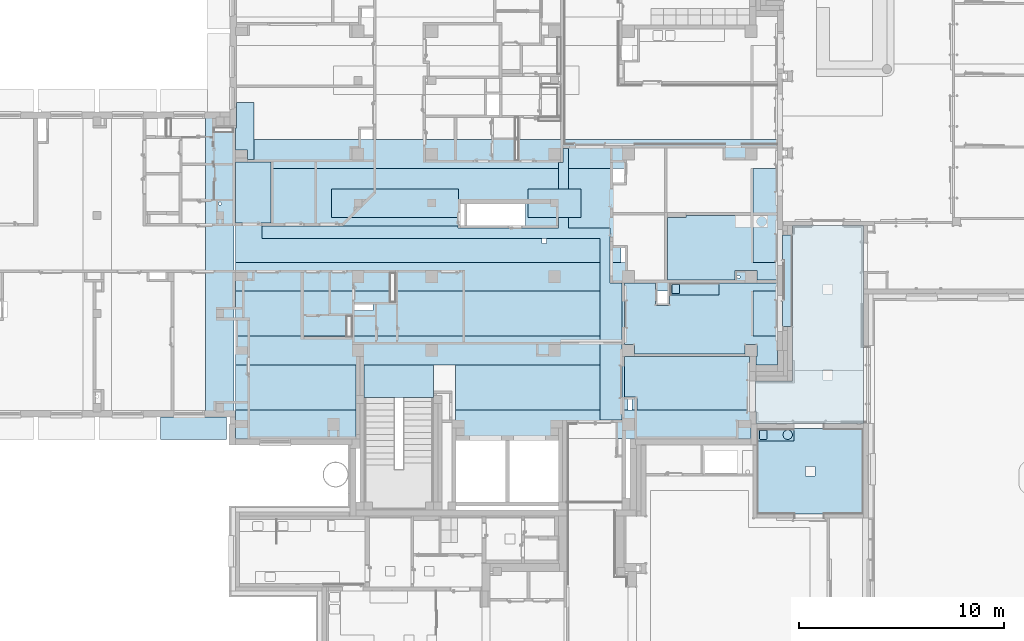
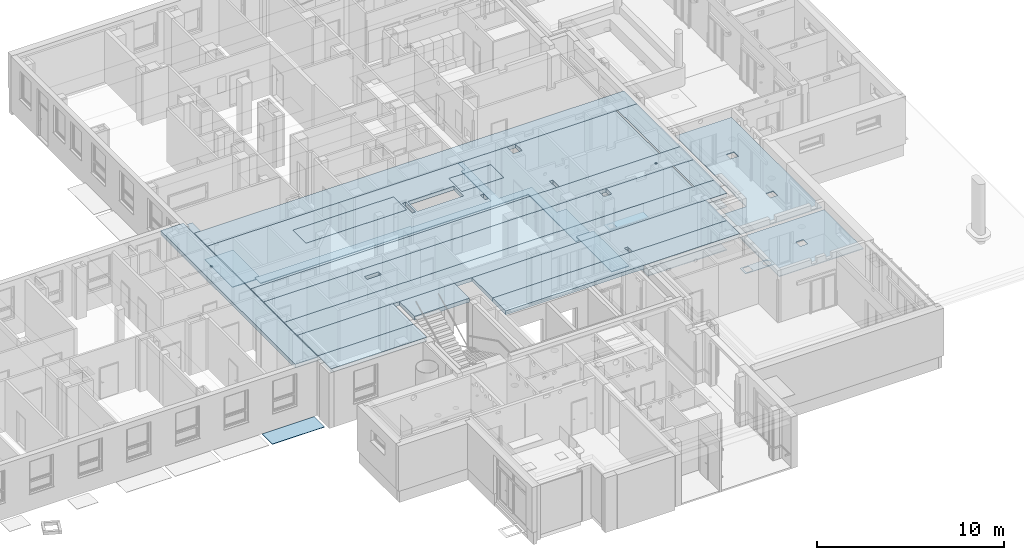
# One storey, part 9 of 140: 28 slabs, 10 openings.
"""IFC4 building model written with IfcOpenShell, lengths in metres."""

from ifc_helpers import new_model, entity, si_unit, converted_unit, derived_unit, frame, frame_2d, origin, origin_with_axes, place, context, subcontext, project, spatial, polyline, rectangle, circle, outline, extrude, material, element, save


model = new_model("IFC4")

# Units and contexts
model_context = context("Model", 3, precision=1e-05, world=origin())
body_context = subcontext(model_context, "Body", "Model", "MODEL_VIEW")
ifc_project = project(units=[si_unit("LENGTHUNIT", "METRE"), si_unit("AREAUNIT", "SQUARE_METRE"), si_unit("VOLUMEUNIT", "CUBIC_METRE"), si_unit("MASSUNIT", "GRAM", prefix="KILO"), converted_unit("PLANEANGLEUNIT", "DEGREE", entity("IfcPlaneAngleMeasure", 0.0174532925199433), si_unit("PLANEANGLEUNIT", "RADIAN"), dimensions=[0, 0, 0, 0, 0, 0, 0]), derived_unit("THERMALTRANSMITTANCEUNIT", [(si_unit("POWERUNIT", "WATT"), 1), (si_unit("THERMODYNAMICTEMPERATUREUNIT", "KELVIN"), -1), (si_unit("LENGTHUNIT", "METRE"), -2)]), derived_unit("VOLUMETRICFLOWRATEUNIT", [(si_unit("LENGTHUNIT", "METRE"), 3), (converted_unit("TIMEUNIT", "hour", entity("IfcTimeMeasure", 3600.0), si_unit("TIMEUNIT", "SECOND"), dimensions=[0, 0, 1, 0, 0, 0, 0]), -1), (si_unit("LENGTHUNIT", "METRE"), -1)])], contexts=[model_context])

# Site, building, storey
site_placement = place(None, origin())
site = spatial("IfcSite", under=ifc_project, at=site_placement, Name="3. ASŘ", CompositionType="ELEMENT")
building_placement = place(site_placement, origin())
building = spatial("IfcBuilding", under=site, at=building_placement, Name="Pavilon C", CompositionType="ELEMENT")
storey_placement = place(building_placement, origin())
storey = spatial("IfcBuildingStorey", under=building, at=storey_placement, Name="Půdorys 1.NP", CompositionType="ELEMENT", Elevation=0.0)

# Slabs
ifc_material_1 = material(Name="RZT")
slab_1_placement = place(storey_placement, frame((24.75, -0.700000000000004, 3.25)))
element("IfcSlab", 1, at=slab_1_placement, inside=storey, material=ifc_material_1, PredefinedType="FLOOR", context=body_context, shape_type="SweptSolid", body=[
    extrude(rectangle(XDim=1.4, YDim=5.9, at=frame_2d((-2.95, 0.700000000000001), x_axis=(0.0, 1.0))), frame((5.9, 0.0, 0.0), z_axis=(0.0, 0.0, 1.0), x_axis=(1.0, 0.0, 0.0)), (0.0, 0.0, 1.0), 0.25),
])
ifc_material_2 = material(Name="PZD")
slab_2_placement = place(storey_placement, frame((24.75, 0.699999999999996, 3.25)))
element("IfcSlab", 2, at=slab_2_placement, inside=storey, material=ifc_material_2, PredefinedType="FLOOR", context=body_context, shape_type="SweptSolid", body=[
    extrude(rectangle(XDim=2.2, YDim=5.9, at=frame_2d((2.95, -1.1), x_axis=(0.0, -1.0))), frame((0.0, 2.2, 0.0), z_axis=(0.0, 0.0, 1.0), x_axis=(1.0, 0.0, 0.0)), (0.0, 0.0, 1.0), 0.25),
])
ifc_material_3 = material(Name="DZH")
slab_3_placement = place(storey_placement, frame((31.05, 1.3001, 3.25)))
element("IfcSlab", 3, at=slab_3_placement, inside=storey, material=ifc_material_3, PredefinedType="FLOOR", context=body_context, shape_type="SweptSolid", body=[
    extrude(rectangle(XDim=1.5999, YDim=3.39999999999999, at=frame_2d((-1.69999999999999, 0.799949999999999), x_axis=(0.0, 1.0))), frame((3.39999999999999, 0.0, 0.0), z_axis=(0.0, 0.0, 1.0), x_axis=(1.0, 0.0, 0.0)), (0.0, 0.0, 1.0), 0.25),
])

# Slab, opening
ifc_material_4 = material(Name="PZD")
slab_4_placement = place(storey_placement, frame((35.52, 0.699999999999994, 3.25)))
slab_4 = element("IfcSlab", 4, at=slab_4_placement, inside=storey, material=ifc_material_4, PredefinedType="FLOOR", context=body_context, shape_type="SweptSolid", body=[
    extrude(rectangle(XDim=14.43, YDim=2.2, at=frame_2d((7.215, 1.1), x_axis=(1.0, -7.87850573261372e-18))), frame((0.0, 1.13686837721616e-16, 0.0), z_axis=(0.0, 0.0, 1.0), x_axis=(1.0, 0.0, 0.0)), (0.0, 0.0, 1.0), 0.25),
])
opening_1_placement = place(slab_4_placement, frame((8.43, -1.70530256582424e-15, 0.0)))
element("IfcOpeningElement", 5, at=opening_1_placement, cuts=slab_4, Name="Prostup deskou", ObjectType="Opening", context=body_context, shape_type="SweptSolid", body=[
    extrude(rectangle(XDim=0.5, YDim=0.2, at=frame_2d((7.27595761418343e-15, 0.0), x_axis=(0.0, -1.0))), frame((0.0999999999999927, 0.25, 0.0), z_axis=(0.0, 0.0, 1.0), x_axis=(1.0, 0.0, 0.0)), (0.0, 0.0, 1.0), 0.25),
])

# Slabs
ifc_material_5 = material(Name="RZT")
slab_5_placement = place(storey_placement, frame((35.52, -0.700000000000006, 3.25)))
element("IfcSlab", 6, at=slab_5_placement, inside=storey, material=ifc_material_5, PredefinedType="FLOOR", context=body_context, shape_type="SweptSolid", body=[
    extrude(rectangle(XDim=1.4, YDim=14.43, at=frame_2d((-7.215, 0.700000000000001), x_axis=(0.0, 1.0))), frame((14.43, 0.0, 0.0), z_axis=(0.0, 0.0, 1.0), x_axis=(1.0, 0.0, 0.0)), (0.0, 0.0, 1.0), 0.25),
])
ifc_material_6 = material(Name="RZT")
slab_6_placement = place(storey_placement, frame((29.45, 10.1, 3.25)))
element("IfcSlab", 7, at=slab_6_placement, inside=storey, material=ifc_material_6, PredefinedType="FLOOR", context=body_context, shape_type="SweptSolid", body=[
    extrude(rectangle(XDim=1.4, YDim=6.2, at=frame_2d((-3.1, 0.7), x_axis=(0.0, 1.0))), frame((6.2, 0.0, 0.0), z_axis=(0.0, 0.0, 1.0), x_axis=(1.0, 0.0, 0.0)), (0.0, 0.0, 1.0), 0.25),
])
ifc_material_7 = material(Name="RZT")
slab_7_placement = place(storey_placement, frame((39.05, 10.1, 3.25)))
element("IfcSlab", 8, at=slab_7_placement, inside=storey, material=ifc_material_7, PredefinedType="FLOOR", context=body_context, shape_type="SweptSolid", body=[
    extrude(rectangle(XDim=1.4, YDim=2.6, at=frame_2d((-1.3, 0.7), x_axis=(0.0, 1.0))), frame((2.6, 0.0, 0.0), z_axis=(0.0, 0.0, 1.0), x_axis=(1.0, 0.0, 0.0)), (0.0, 0.0, 1.0), 0.25),
])

# Slab, openings
ifc_material_8 = material(Name="PZD")
slab_8_placement = place(storey_placement, frame((24.75, 7.9, 3.25)))
slab_8 = element("IfcSlab", 9, at=slab_8_placement, inside=storey, material=ifc_material_8, PredefinedType="FLOOR", context=body_context, shape_type="SweptSolid", body=[
    extrude(outline(polyline([(25.2, 0.0), (25.2, 4.6), (0.0, 4.6), (0.0, 0.0), (25.2, 0.0)]), holes=[polyline([(10.9, 2.19999999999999), (4.7, 2.19999999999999), (4.7, 3.59999999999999), (10.9, 3.59999999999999), (10.9, 2.19999999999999)]), polyline([(14.3, 2.2), (14.3, 3.59999999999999), (16.9, 3.59999999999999), (16.9, 2.19999999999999), (14.3, 2.2)])]), origin_with_axes(), (0.0, 0.0, 1.0), 0.25),
])
opening_2_placement = place(slab_8_placement, frame((18.85, -4.54747350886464e-15, 0.0)))
element("IfcOpeningElement", 10, at=opening_2_placement, cuts=slab_8, Name="Prostup deskou", ObjectType="Opening", context=body_context, shape_type="SweptSolid", body=[
    extrude(rectangle(XDim=0.7, YDim=0.2, at=frame_2d((7.27595761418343e-15, 0.0), x_axis=(0.0, -1.0))), frame((0.0999999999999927, 0.35, 0.0), z_axis=(0.0, 0.0, 1.0), x_axis=(1.0, 0.0, 0.0)), (0.0, 0.0, 1.0), 0.25),
])
opening_3_placement = place(slab_8_placement, frame((18.45, 3.9, 4.54747350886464e-16)))
element("IfcOpeningElement", 11, at=opening_3_placement, cuts=slab_8, Name="Prostup deskou", ObjectType="Opening", context=body_context, shape_type="SweptSolid", body=[
    extrude(rectangle(XDim=0.7, YDim=0.55, at=frame_2d((7.27595761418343e-15, 0.0), x_axis=(0.0, -1.0))), frame((0.274999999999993, 0.35, -4.54747350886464e-16), z_axis=(0.0, 0.0, 1.0), x_axis=(1.0, 0.0, 0.0)), (0.0, 0.0, 1.0), 0.25),
])
opening_4_placement = place(slab_8_placement, frame((15.0, 0.924999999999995, 0.0)))
element("IfcOpeningElement", 12, at=opening_4_placement, cuts=slab_8, Name="Prostup deskou", ObjectType="Opening", context=body_context, shape_type="SweptSolid", body=[
    extrude(rectangle(XDim=0.5, YDim=0.2, at=frame_2d((7.27595761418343e-15, 0.0), x_axis=(0.0, -1.0))), frame((0.0999999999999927, 0.25, 0.0), z_axis=(0.0, 0.0, 1.0), x_axis=(1.0, 0.0, 0.0)), (0.0, 0.0, 1.0), 0.25),
])
opening_5_placement = place(slab_8_placement, frame((11.0125, 1.79999999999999, 4.54747350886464e-16)))
element("IfcOpeningElement", 13, at=opening_5_placement, cuts=slab_8, Name="Prostup deskou", ObjectType="Opening", context=body_context, shape_type="SweptSolid", body=[
    extrude(rectangle(XDim=1.05, YDim=0.2, at=frame_2d((7.27595761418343e-15, 1.81898940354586e-15), x_axis=(0.0, -1.0))), frame((0.0999999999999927, 0.524999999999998, -4.54747350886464e-16), z_axis=(0.0, 0.0, 1.0), x_axis=(1.0, 0.0, 0.0)), (0.0, 0.0, 1.0), 0.25),
])
opening_6_placement = place(slab_8_placement, frame((11.3375, 1.79999999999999, 0.0)))
element("IfcOpeningElement", 14, at=opening_6_placement, cuts=slab_8, Name="Prostup deskou", ObjectType="Opening", context=body_context, shape_type="SweptSolid", body=[
    extrude(rectangle(XDim=1.05, YDim=2.85, at=frame_2d((7.27595761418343e-15, 1.81898940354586e-15), x_axis=(0.0, -1.0))), frame((1.42499999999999, 0.524999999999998, 0.0), z_axis=(0.0, 0.0, 1.0), x_axis=(1.0, 0.0, 0.0)), (0.0, 0.0, 1.0), 0.25),
])

ifc_material_9 = material(Name="PZD")
slab_9_placement = place(storey_placement, frame((24.75, 4.3, 3.25)))
slab_9 = element("IfcSlab", 15, at=slab_9_placement, inside=storey, material=ifc_material_9, PredefinedType="FLOOR", context=body_context, shape_type="SweptSolid", body=[
    extrude(rectangle(XDim=2.2, YDim=25.2, at=frame_2d((-12.6, 1.1), x_axis=(0.0, 1.0))), frame((25.2, 0.0, 0.0), z_axis=(0.0, 0.0, 1.0), x_axis=(1.0, 0.0, 0.0)), (0.0, 0.0, 1.0), 0.25),
])
opening_7_placement = place(slab_9_placement, frame((20.63, 1.6, 0.0)))
element("IfcOpeningElement", 16, at=opening_7_placement, cuts=slab_9, Name="Prostup deskou", ObjectType="Opening", context=body_context, shape_type="SweptSolid", body=[
    extrude(rectangle(XDim=0.6, YDim=0.5, at=frame_2d((7.27595761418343e-15, 0.0), x_axis=(0.0, -1.0))), frame((0.249999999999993, 0.3, 0.0), z_axis=(0.0, 0.0, 1.0), x_axis=(1.0, 0.0, 0.0)), (0.0, 0.0, 1.0), 0.25),
])
opening_8_placement = place(slab_9_placement, frame((5.825, 1.25, 0.0)))
element("IfcOpeningElement", 17, at=opening_8_placement, cuts=slab_9, Name="Prostup deskou", ObjectType="Opening", context=body_context, shape_type="SweptSolid", body=[
    extrude(rectangle(XDim=0.3, YDim=0.9, at=frame_2d((3.63797880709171e-15, -9.09494701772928e-16), x_axis=(0.0, -1.0))), frame((0.449999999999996, 0.150000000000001, 0.0), z_axis=(0.0, 0.0, 1.0), x_axis=(1.0, 0.0, 0.0)), (0.0, 0.0, 1.0), 0.25),
])

# Slab, opening
ifc_material_10 = material(Name="RZT")
slab_10_placement = place(storey_placement, frame((23.3, 0.600000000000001, 3.25)))
slab_10 = element("IfcSlab", 18, at=slab_10_placement, inside=storey, material=ifc_material_10, PredefinedType="FLOOR", context=body_context, shape_type="SweptSolid", body=[
    extrude(rectangle(XDim=1.4, YDim=14.4, at=frame_2d((0.700000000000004, 7.2), x_axis=(1.0, 0.0))), origin_with_axes(), (0.0, 0.0, 1.0), 0.25),
])
opening_9_placement = place(slab_10_placement, frame((0.625077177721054, 10.100077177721, 0.0)))
element("IfcOpeningElement", 19, at=opening_9_placement, cuts=slab_10, Name="Prostup deskou", ObjectType="Opening", context=body_context, shape_type="SweptSolid", body=[
    extrude(circle(Radius=0.0749999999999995, at=frame_2d((7.27595761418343e-15, -1.81898940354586e-15), x_axis=(1.0, 0.0))), frame((0.0749228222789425, 0.0749228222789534, 0.0), z_axis=(0.0, 0.0, 1.0), x_axis=(1.0, 0.0, 0.0)), (0.0, 0.0, 1.0), 0.25),
])

# Slabs
ifc_material_11 = material(Name="RZT")
slab_11_placement = place(storey_placement, frame((24.75, 2.89999999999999, 3.25)))
element("IfcSlab", 20, at=slab_11_placement, inside=storey, material=ifc_material_11, PredefinedType="FLOOR", context=body_context, shape_type="SweptSolid", body=[
    extrude(rectangle(XDim=1.4, YDim=26.5, at=frame_2d((-13.25, 0.700000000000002), x_axis=(0.0, 1.0))), frame((26.5, 0.0, 0.0), z_axis=(0.0, 0.0, 1.0), x_axis=(1.0, 0.0, 0.0)), (0.0, 0.0, 1.0), 0.25),
])
ifc_material_12 = material(Name="PZD")
slab_12_placement = place(storey_placement, frame((50.05, 4.29999999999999, 3.25)))
element("IfcSlab", 21, at=slab_12_placement, inside=storey, material=ifc_material_12, PredefinedType="FLOOR", context=body_context, shape_type="SweptSolid", body=[
    extrude(rectangle(XDim=1.2, YDim=2.2, at=frame_2d((0.6, 1.1), x_axis=(1.0, 0.0))), origin_with_axes(), (0.0, 0.0, 1.0), 0.25),
])
ifc_material_13 = material(Name="PZD")
slab_13_placement = place(storey_placement, frame((50.05, 7.89999999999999, 3.25)))
element("IfcSlab", 22, at=slab_13_placement, inside=storey, material=ifc_material_13, PredefinedType="FLOOR", context=body_context, shape_type="SweptSolid", body=[
    extrude(rectangle(XDim=1.2, YDim=4.6, at=frame_2d((0.6, 2.3), x_axis=(1.0, 0.0))), origin_with_axes(), (0.0, 0.0, 1.0), 0.25),
])
ifc_material_14 = material(Name="RZT")
slab_14_placement = place(storey_placement, frame((24.75, 12.5, 3.25)))
element("IfcSlab", 23, at=slab_14_placement, inside=storey, material=ifc_material_14, PredefinedType="FLOOR", context=body_context, shape_type="SweptSolid", body=[
    extrude(rectangle(XDim=1.4, YDim=26.5, at=frame_2d((-13.25, 0.700000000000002), x_axis=(0.0, 1.0))), frame((26.5, 0.0, 0.0), z_axis=(0.0, 0.0, 1.0), x_axis=(1.0, 0.0, 0.0)), (0.0, 0.0, 1.0), 0.25),
])

# Slab, opening
ifc_material_15 = material(Name="RZT")
slab_15_placement = place(storey_placement, frame((24.75, 6.49999999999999, 3.25)))
slab_15 = element("IfcSlab", 24, at=slab_15_placement, inside=storey, material=ifc_material_15, PredefinedType="FLOOR", context=body_context, shape_type="SweptSolid", body=[
    extrude(rectangle(XDim=1.4, YDim=26.5, at=frame_2d((-13.25, 0.700000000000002), x_axis=(0.0, 1.0))), frame((26.5, 0.0, 0.0), z_axis=(0.0, 0.0, 1.0), x_axis=(1.0, 0.0, 0.0)), (0.0, 0.0, 1.0), 0.25),
])
opening_10_placement = place(slab_15_placement, frame((24.525077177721, 0.625077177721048, 0.0)))
element("IfcOpeningElement", 25, at=opening_10_placement, cuts=slab_15, Name="Prostup deskou", ObjectType="Opening", context=body_context, shape_type="SweptSolid", body=[
    extrude(circle(Radius=0.0749999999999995, at=frame_2d((7.27595761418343e-15, 4.54747350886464e-15), x_axis=(1.0, 0.0))), frame((0.0749228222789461, 0.0749228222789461, 0.0), z_axis=(0.0, 0.0, 1.0), x_axis=(1.0, 0.0, 0.0)), (0.0, 0.0, 1.0), 0.25),
])

# Slabs
ifc_material_16 = material(Name="Kuchyňská deska")
slab_16_placement = place(storey_placement, frame((50.25, -0.819999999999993, 0.82)))
element("IfcSlab", 26, at=slab_16_placement, inside=storey, material=ifc_material_16, PredefinedType="FLOOR", context=body_context, shape_type="SweptSolid", body=[
    extrude(outline(polyline([(0.0, 0.6), (0.0, 0.0), (1.8, 0.0), (1.8, 0.6), (0.0, 0.6)]), holes=[polyline([(1.72216294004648, 0.240471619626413), (1.7124922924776, 0.211982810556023), (1.69918584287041, 0.184999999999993), (1.68247126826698, 0.159984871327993), (1.6626345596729, 0.137365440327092), (1.640015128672, 0.117528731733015), (1.615, 0.100814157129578), (1.58801718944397, 0.0875077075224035), (1.55952838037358, 0.0778370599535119), (1.53002102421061, 0.0719676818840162), (1.5, 0.0699999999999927), (1.46997897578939, 0.0719676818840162), (1.44047161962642, 0.0778370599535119), (1.41198281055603, 0.0875077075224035), (1.385, 0.100814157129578), (1.35998487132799, 0.117528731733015), (1.33736544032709, 0.137365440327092), (1.31752873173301, 0.159984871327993), (1.30081415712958, 0.184999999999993), (1.2875077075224, 0.211982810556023), (1.27783705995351, 0.24047161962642), (1.27196768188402, 0.269978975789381), (1.27, 0.299999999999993), (1.27196768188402, 0.330021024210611), (1.27783705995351, 0.359528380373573), (1.2875077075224, 0.38801718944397), (1.30081415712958, 0.414999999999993), (1.31752873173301, 0.440015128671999), (1.33736544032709, 0.462634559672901), (1.35998487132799, 0.482471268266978), (1.385, 0.499185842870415), (1.41198281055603, 0.512492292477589), (1.44047161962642, 0.522162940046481), (1.46997897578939, 0.528032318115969), (1.5, 0.529999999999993), (1.53002102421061, 0.528032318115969), (1.55952838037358, 0.522162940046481), (1.58801718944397, 0.512492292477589), (1.615, 0.499185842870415), (1.64001512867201, 0.482471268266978), (1.6626345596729, 0.462634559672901), (1.68247126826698, 0.440015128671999), (1.69918584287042, 0.414999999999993), (1.7124922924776, 0.38801718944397), (1.72216294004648, 0.359528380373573), (1.72803231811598, 0.330021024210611), (1.73, 0.299999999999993), (1.72803231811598, 0.269978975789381), (1.72216294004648, 0.240471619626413)]), polyline([(0.475404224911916, 0.509387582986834), (0.48044052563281, 0.503796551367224), (0.484525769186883, 0.497319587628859), (0.487535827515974, 0.490153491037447), (0.489379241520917, 0.482515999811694), (0.489999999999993, 0.474639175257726), (0.489999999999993, 0.12536082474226), (0.489379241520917, 0.117484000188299), (0.487535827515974, 0.109846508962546), (0.484525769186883, 0.102680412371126), (0.48044052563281, 0.0962034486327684), (0.475404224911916, 0.0906124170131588), (0.469569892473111, 0.0860771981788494), (0.463114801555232, 0.0827355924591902), (0.456235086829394, 0.0806891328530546), (0.44913978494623, 0.0799999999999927), (0.150860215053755, 0.0799999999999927), (0.143764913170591, 0.0806891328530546), (0.136885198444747, 0.0827355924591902), (0.130430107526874, 0.0860771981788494), (0.12459577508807, 0.0906124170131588), (0.119559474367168, 0.0962034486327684), (0.115474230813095, 0.102680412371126), (0.112464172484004, 0.109846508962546), (0.110620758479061, 0.117484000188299), (0.109999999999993, 0.12536082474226), (0.109999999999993, 0.474639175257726), (0.110620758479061, 0.482515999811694), (0.112464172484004, 0.490153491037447), (0.115474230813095, 0.497319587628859), (0.119559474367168, 0.503796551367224), (0.12459577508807, 0.509387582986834), (0.130430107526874, 0.513922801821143), (0.136885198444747, 0.517264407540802), (0.143764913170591, 0.519310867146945), (0.150860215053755, 0.519999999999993), (0.44913978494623, 0.519999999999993), (0.456235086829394, 0.519310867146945), (0.463114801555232, 0.517264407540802), (0.469569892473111, 0.513922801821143), (0.475404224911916, 0.509387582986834)])]), origin_with_axes(), (0.0, 0.0, 1.0), 0.03),
])
ifc_material_17 = material(Name="Kuchyňská deska")
slab_17_placement = place(storey_placement, frame((45.9800276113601, 6.29999999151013, 0.82)))
element("IfcSlab", 27, at=slab_17_placement, inside=storey, material=ifc_material_17, PredefinedType="FLOOR", context=body_context, shape_type="SweptSolid", body=[
    extrude(outline(polyline([(0.0, 0.6), (0.0, 0.0), (2.4, 0.0), (2.4, 0.000397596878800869), (2.40001648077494, 0.000397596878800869), (2.40001648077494, 0.600884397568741), (1.19988406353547, 0.600884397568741), (1.19988406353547, 0.6), (0.0, 0.6)]), holes=[polyline([(0.48044052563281, 0.503796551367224), (0.484525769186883, 0.497319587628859), (0.487535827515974, 0.490153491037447), (0.489379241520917, 0.482515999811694), (0.489999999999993, 0.474639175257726), (0.489999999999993, 0.12536082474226), (0.489379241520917, 0.117484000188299), (0.487535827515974, 0.109846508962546), (0.484525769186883, 0.102680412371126), (0.48044052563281, 0.0962034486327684), (0.475404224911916, 0.0906124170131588), (0.469569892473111, 0.0860771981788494), (0.463114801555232, 0.0827355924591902), (0.456235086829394, 0.0806891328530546), (0.44913978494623, 0.0799999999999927), (0.150860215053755, 0.0799999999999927), (0.143764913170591, 0.0806891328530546), (0.136885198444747, 0.0827355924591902), (0.130430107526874, 0.0860771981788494), (0.12459577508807, 0.0906124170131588), (0.119559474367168, 0.0962034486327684), (0.115474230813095, 0.102680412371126), (0.112464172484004, 0.109846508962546), (0.110620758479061, 0.117484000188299), (0.109999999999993, 0.12536082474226), (0.109999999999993, 0.474639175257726), (0.110620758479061, 0.482515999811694), (0.112464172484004, 0.490153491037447), (0.115474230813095, 0.497319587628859), (0.119559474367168, 0.503796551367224), (0.12459577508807, 0.509387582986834), (0.130430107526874, 0.513922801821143), (0.136885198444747, 0.517264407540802), (0.143764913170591, 0.519310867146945), (0.150860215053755, 0.519999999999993), (0.44913978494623, 0.519999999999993), (0.456235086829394, 0.519310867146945), (0.463114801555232, 0.517264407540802), (0.469569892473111, 0.513922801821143), (0.475404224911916, 0.509387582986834), (0.48044052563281, 0.503796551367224)])]), origin_with_axes(), (0.0, 0.0, 1.0), 0.03),
])
ifc_material_18 = material(Name="KRYCÍ ROŠT ANGLICKÉHO DVORKU")
slab_18_placement = place(storey_placement, frame((21.1, -0.75500000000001, -0.13)))
element("IfcSlab", 28, at=slab_18_placement, inside=storey, material=ifc_material_18, PredefinedType="FLOOR", context=body_context, shape_type="SweptSolid", body=[
    extrude(rectangle(XDim=1.10500000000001, YDim=3.225, at=frame_2d((1.6125, -0.552500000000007), x_axis=(0.0, -1.0))), frame((0.0, 1.10500000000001, 0.0), z_axis=(0.0, 0.0, 1.0), x_axis=(1.0, 0.0, 0.0)), (0.0, 0.0, 1.0), 0.03),
])
ifc_material_19 = material(Name="Demontáž a montáž kazetového pod")
slab_19_placement = place(storey_placement, frame((24.75, 12.925, 2.7)))
element("IfcSlab", 29, at=slab_19_placement, inside=storey, material=ifc_material_19, PredefinedType="FLOOR", context=body_context, shape_type="SweptSolid", body=[
    extrude(outline(polyline([(0.919895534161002, 2.8), (0.0700000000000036, 2.8), (0.0700000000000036, 1.55), (0.0, 1.55), (0.0, 0.475), (0.6, 0.475), (0.6, 0.0), (0.919895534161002, 0.0), (0.919895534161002, 2.8)])), origin_with_axes(), (0.0, 0.0, 1.0), 0.05),
])
ifc_material_20 = material(Name="Demontáž a montáž kazetového pod")
slab_20_placement = place(storey_placement, frame((26.05, 4.025, 2.65)))
element("IfcSlab", 30, at=slab_20_placement, inside=storey, material=ifc_material_20, PredefinedType="FLOOR", context=body_context, shape_type="SweptSolid", body=[
    extrude(outline(polyline([(0.0, 5.65), (0.0, 5.05), (16.525, 5.05), (16.525, 0.0), (17.6, 0.0), (17.6, 2.875), (17.025, 2.875), (17.025, 5.54999999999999), (14.975, 5.54999999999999), (14.975, 9.45), (14.725, 9.45), (14.725, 8.75), (14.5, 8.75), (14.5, 5.54999999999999), (9.5875, 5.54999999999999), (9.5875, 5.65), (0.0, 5.65)])), origin_with_axes(), (0.0, 0.0, 1.0), 0.05),
])
ifc_material_21 = material(Name="Demontáž a montáž kazetového pod")
slab_21_placement = place(storey_placement, frame((42.575, 0.199999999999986, 3.0)))
element("IfcSlab", 31, at=slab_21_placement, inside=storey, material=ifc_material_21, PredefinedType="FLOOR", context=body_context, shape_type="SweptSolid", body=[
    extrude(rectangle(XDim=1.075, YDim=3.77500000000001, at=frame_2d((0.5375, 1.88750000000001), x_axis=(1.0, -5.28775989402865e-17))), frame((0.0, 5.6843418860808e-17, 0.0), z_axis=(0.0, 0.0, 1.0), x_axis=(1.0, 0.0, 0.0)), (0.0, 0.0, 1.0), 0.05),
])
ifc_material_22 = material(Name="Kazetový podhled hyg. 0,6×0,6")
slab_22_placement = place(storey_placement, frame((50.25, -4.4, 2.8)))
element("IfcSlab", 32, at=slab_22_placement, inside=storey, material=ifc_material_22, PredefinedType="FLOOR", context=body_context, shape_type="SweptSolid", body=[
    extrude(outline(polyline([(5.19999999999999, 4.18000000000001), (0.0, 4.18000000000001), (0.0, 0.400000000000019), (0.0, 9.09494701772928e-16), (5.19999999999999, 0.0), (5.19999999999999, 4.18000000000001)]), holes=[polyline([(2.36499999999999, 1.85500000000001), (2.36499999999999, 2.32500000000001), (2.83499999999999, 2.32500000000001), (2.83499999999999, 1.85500000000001), (2.36499999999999, 1.85500000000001)])]), origin_with_axes(), (0.0, 0.0, 1.0), 0.05),
])
ifc_material_23 = material(Name="Kazetový podhled hyg. 0,6×0,6")
slab_23_placement = place(storey_placement, frame((43.775, 2.88, 2.6)))
element("IfcSlab", 33, at=slab_23_placement, inside=storey, material=ifc_material_23, PredefinedType="FLOOR", context=body_context, shape_type="SweptSolid", body=[
    extrude(outline(polyline([(0.0, 1.02), (0.475000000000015, 1.02), (0.475000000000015, 0.544999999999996), (5.87500000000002, 0.544999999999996), (5.87500000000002, 1.02), (6.47500000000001, 1.02), (6.47500000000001, 0.419999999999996), (6.42500000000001, 0.419999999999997), (6.42500000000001, 0.0), (7.47500000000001, 0.0), (7.47500000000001, 0.72), (7.47500000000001, 4.02), (2.20500000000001, 4.02), (2.20500000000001, 2.92), (1.50500000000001, 2.92), (1.50500000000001, 4.02), (0.0, 4.02), (0.0, 1.02)])), origin_with_axes(), (0.0, 0.0, 1.0), 0.05),
])
ifc_material_24 = material(Name="Kazetový podhled bílý 0,6×0,6")
slab_24_placement = place(storey_placement, frame((50.18, 0.0300000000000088, 2.8)))
element("IfcSlab", 34, at=slab_24_placement, inside=storey, material=ifc_material_24, PredefinedType="FLOOR", context=body_context, shape_type="SweptSolid", body=[
    extrude(outline(polyline([(1.8, 9.66999999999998), (1.8, 9.21999999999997), (1.8, 4.74499999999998), (1.8, 2.06999999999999), (0.0, 2.06999999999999), (0.0, 0.569999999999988), (0.02, 0.569999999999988), (0.02, 6.57252030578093e-16), (5.26999999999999, 0.0), (5.26999999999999, 9.66999999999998), (1.8, 9.66999999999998)]), holes=[polyline([(3.76999999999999, 6.80499999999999), (3.76999999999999, 6.33499999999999), (3.29999999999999, 6.33499999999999), (3.29999999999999, 6.80499999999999), (3.76999999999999, 6.80499999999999)]), polyline([(3.76999999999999, 2.60499999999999), (3.76999999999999, 2.13499999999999), (3.29999999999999, 2.13499999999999), (3.29999999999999, 2.60499999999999), (3.76999999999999, 2.60499999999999)])]), origin_with_axes(), (0.0, 0.0, 1.0), 0.05),
])
ifc_material_25 = material(Name="Kazet. podhled do vlhka 0,6×0,6")
slab_25_placement = place(storey_placement, frame((45.88, 7.04999999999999, 2.6)))
element("IfcSlab", 35, at=slab_25_placement, inside=storey, material=ifc_material_25, PredefinedType="FLOOR", context=body_context, shape_type="SweptSolid", body=[
    extrude(outline(polyline([(5.37, 9.09494701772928e-16), (5.37, 3.14999999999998), (0.9, 3.14999999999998), (0.9, 3.04999999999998), (0.0, 3.04999999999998), (0.0, 0.0), (3.295, 0.0), (3.295, 0.450000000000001), (4.37, 0.450000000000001), (4.37, 9.09494701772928e-16), (5.37, 9.09494701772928e-16)])), origin_with_axes(), (0.0, 0.0, 1.0), 0.05),
])
ifc_material_26 = material(Name="Kazetový podhled bílý 0,6×0,6")
slab_26_placement = place(storey_placement, frame((43.775, -0.600000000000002, 2.6)))
element("IfcSlab", 36, at=slab_26_placement, inside=storey, material=ifc_material_26, PredefinedType="FLOOR", context=body_context, shape_type="SweptSolid", body=[
    extrude(outline(polyline([(0.6, 0.0), (5.45, 0.0), (5.45, 0.799999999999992), (6.105, 0.799999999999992), (6.105, 3.9), (0.0, 3.9), (0.0, 1.92499999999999), (0.6, 1.92499999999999), (0.6, 0.0)])), origin_with_axes(), (0.0, 0.0, 1.0), 0.05),
])
ifc_material_27 = material(Name="SDK hladký bílý")
slab_27_placement = place(storey_placement, frame((51.5, 4.77499999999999, 2.6)))
element("IfcSlab", 37, at=slab_27_placement, inside=storey, material=ifc_material_27, PredefinedType="FLOOR", context=body_context, shape_type="SweptSolid", body=[
    extrude(rectangle(XDim=0.48, YDim=4.47499999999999, at=frame_2d((0.24, 2.23749999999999), x_axis=(1.0, 0.0))), origin_with_axes(), (0.0, 0.0, 1.0), 0.05),
])
ifc_material_28 = material(Name="Kazetový podhled bílý 0,6×0,6")
slab_28_placement = place(storey_placement, frame((24.75, 9.825, 2.4)))
element("IfcSlab", 38, at=slab_28_placement, inside=storey, material=ifc_material_28, PredefinedType="FLOOR", context=body_context, shape_type="SweptSolid", body=[
    extrude(rectangle(XDim=1.75, YDim=2.975, at=frame_2d((0.875, 1.4875), x_axis=(1.0, 0.0))), origin_with_axes(), (0.0, 0.0, 1.0), 0.05),
])

save(model, "model.ifc")
